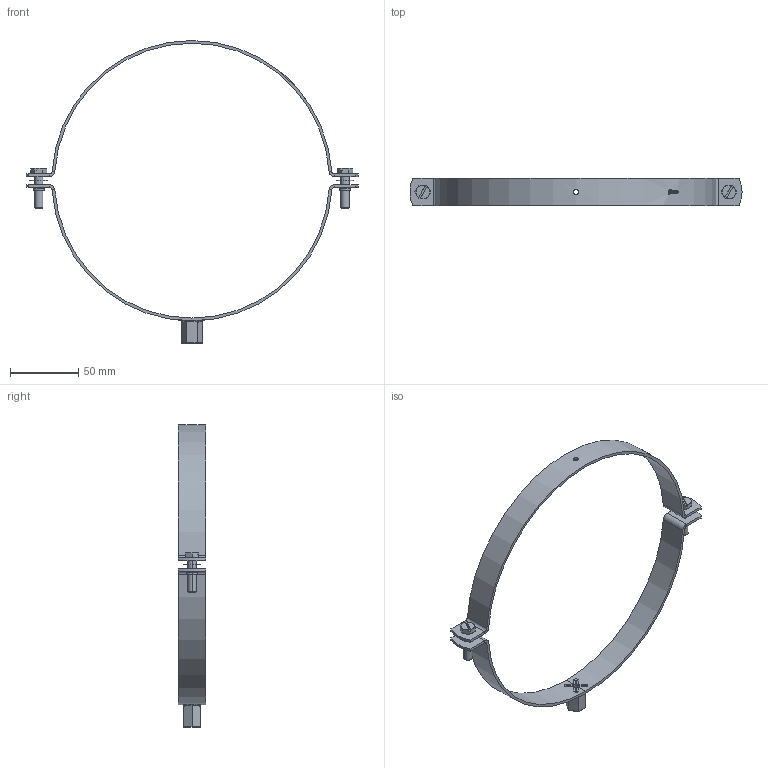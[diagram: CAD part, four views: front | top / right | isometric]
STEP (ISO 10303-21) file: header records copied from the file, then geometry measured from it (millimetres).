
FILE_DESCRIPTION (( 'STEP AP214' ), '1' );
FILE_NAME ('30179200.STEP', '2022-10-27T06:56:27', ( '' ), ( '' ), 'SwSTEP 2.0', 'SolidWorks 2021', '' );
FILE_SCHEMA (( 'AUTOMOTIVE_DESIGN' ));
Length unit declared in the file: millimetre
Products named in the file (7): 30179200; 9519002599; Clamp^8110130200; 8110130200; 9735013060; 8020130200; 9541506025
Assembly tree (8 placements, depth 3):
  30179200
    8110130200
      Clamp^8110130200
      9519002599
    8020130200
    9541506025  x2
    9735013060  x2
Bounding box: 242.83 x 20 x 221.59 mm (x, y, z)
Volume: 31309 mm3; surface area: 34134.6 mm2
Topology: 7 solids, 7 shells, 362 faces, 907 edges, 570 vertices
Faces by surface type: bspline 118, cylinder 102, plane 100, cone 30, torus 12
Entity records: 19783 total; most frequent: CARTESIAN_POINT 13062, ORIENTED_EDGE 1560, DIRECTION 944, EDGE_CURVE 780, VERTEX_POINT 489, B_SPLINE_CURVE_WITH_KNOTS 391, AXIS2_PLACEMENT_3D 363, EDGE_LOOP 335
